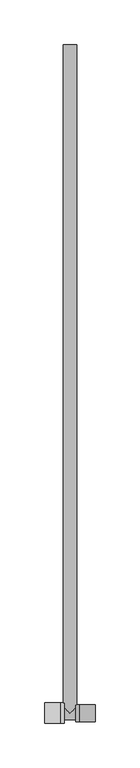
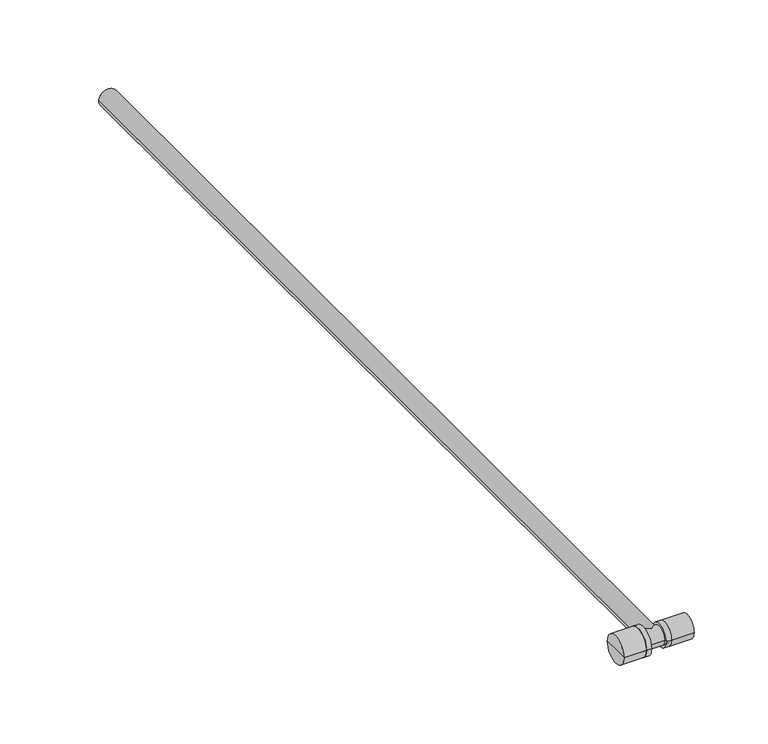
"""IFC4 building model written with IfcOpenShell, lengths in millimetres: pipe fitting geometry, KAN-therm Push 18x2 trójnik redukcyjny z rurą Cu15 L=750 : KAN-therm Push 18x2 trójnik redukcyjny z rurą Cu15 L=750."""

from ifc_helpers import new_model, si_unit, frame, origin, place, context, project, spatial, circle_curve, ellipse_curve, source, transform, mapped, element, save
from ifc_brep_helpers import plane_surface, cylinder_surface, advanced_brep


def pipe_fitting_d329eff9(model_context):
    return source(origin(), model_context, "Body", "AdvancedBrep", [
        advanced_brep(
        [(-10.5, -11.5, 0.0), (-10.5, 0.0, 0.0), (-10.5, 11.5, 0.0), (-6.5, -11.5, 0.0), (-6.5, 11.5, 0.0), (-6.5, 0.0, 0.0)],
        [
            (0, 1),
            (1, 2),
            (2, 0, circle_curve(frame((-10.5, 0.0, 0.0), z_axis=(-1.0, 0.0, 0.0), x_axis=(0.0, 1.0, 0.0)), 11.5)),
            (0, 2, circle_curve(frame((-10.5, 0.0, 0.0), z_axis=(-1.0, 0.0, 0.0), x_axis=(0.0, 1.0, 0.0)), 11.5)),
            (3, 0),
            (2, 4),
            (4, 3, circle_curve(frame((-6.5, 0.0, 0.0), z_axis=(-1.0, 0.0, 0.0), x_axis=(0.0, 1.0, 0.0)), 11.5)),
            (3, 4, circle_curve(frame((-6.5, 0.0, 0.0), z_axis=(-1.0, 0.0, 0.0), x_axis=(0.0, 1.0, 0.0)), 11.5)),
            (5, 3),
            (4, 5),
        ],
        [
            plane_surface(frame((-10.5, 0.0, 0.0), z_axis=(-1.0, 0.0, 0.0), x_axis=(0.0, 1.0, 0.0))),
            cylinder_surface(frame((-2005.5, 0.0, 0.0), z_axis=(1.0, 0.0, 0.0), x_axis=(0.0, 1.0, 0.0)), 11.5),
            plane_surface(frame((-6.5, 0.0, 0.0), z_axis=(1.0, 0.0, 0.0), x_axis=(0.0, 1.0, 0.0))),
        ],
        [
            (0, [[1, 2, 3]]),
            (0, [[-2, -1, 4]]),
            (1, [[5, -3, 6, 7]]),
            (1, [[-6, -4, -5, 8]]),
            (2, [[9, -7, 10]]),
            (2, [[-10, -8, -9]]),
        ],
    ),
        advanced_brep(
        [(-28.5, -11.5, 0.0), (-28.5, 0.0, 0.0), (-28.5, 11.5, 0.0), (-10.5, -11.5, 0.0), (-10.5, 11.5, 0.0), (-10.5, 0.0, 0.0)],
        [
            (0, 1),
            (1, 2),
            (2, 0, circle_curve(frame((-28.5, 0.0, 0.0), z_axis=(-1.0, 0.0, 0.0), x_axis=(0.0, 1.0, 0.0)), 11.5)),
            (0, 2, circle_curve(frame((-28.5, 0.0, 0.0), z_axis=(-1.0, 0.0, 0.0), x_axis=(0.0, 1.0, 0.0)), 11.5)),
            (3, 0),
            (2, 4),
            (4, 3, circle_curve(frame((-10.5, 0.0, 0.0), z_axis=(-1.0, 0.0, 0.0), x_axis=(0.0, 1.0, 0.0)), 11.5)),
            (3, 4, circle_curve(frame((-10.5, 0.0, 0.0), z_axis=(-1.0, 0.0, 0.0), x_axis=(0.0, 1.0, 0.0)), 11.5)),
            (5, 3),
            (4, 5),
        ],
        [
            plane_surface(frame((-28.5, 0.0, 0.0), z_axis=(-1.0, 0.0, 0.0), x_axis=(0.0, 1.0, 0.0))),
            cylinder_surface(frame((-2005.5, 0.0, 0.0), z_axis=(1.0, 0.0, 0.0), x_axis=(0.0, 1.0, 0.0)), 11.5),
            plane_surface(frame((-10.5, 0.0, 0.0), z_axis=(1.0, 0.0, 0.0), x_axis=(0.0, 1.0, 0.0))),
        ],
        [
            (0, [[1, 2, 3]]),
            (0, [[-2, -1, 4]]),
            (1, [[5, -3, 6, 7]]),
            (1, [[-6, -4, -5, 8]]),
            (2, [[9, -7, 10]]),
            (2, [[-10, -8, -9]]),
        ],
    ),
        advanced_brep(
        [(10.5, -9.5, 0.0), (10.5, 9.5, 0.0), (10.5, 0.0, 0.0), (6.5, -9.5, 0.0), (6.5, 9.5, 0.0), (6.5, 0.0, 0.0)],
        [
            (0, 1, circle_curve(frame((10.5, 0.0, 0.0), z_axis=(1.0, 0.0, 0.0), x_axis=(0.0, 1.0, 0.0)), 9.5)),
            (1, 2),
            (2, 0),
            (1, 0, circle_curve(frame((10.5, 0.0, 0.0), z_axis=(1.0, 0.0, 0.0), x_axis=(0.0, 1.0, 0.0)), 9.5)),
            (3, 4, circle_curve(frame((6.5, 0.0, 0.0), z_axis=(1.0, 0.0, 0.0), x_axis=(0.0, 1.0, 0.0)), 9.5)),
            (4, 1),
            (0, 3),
            (4, 3, circle_curve(frame((6.5, 0.0, 0.0), z_axis=(1.0, 0.0, 0.0), x_axis=(0.0, 1.0, 0.0)), 9.5)),
            (5, 4),
            (3, 5),
        ],
        [
            plane_surface(frame((10.5, 0.0, 0.0), z_axis=(1.0, 0.0, 0.0), x_axis=(0.0, 1.0, 0.0))),
            cylinder_surface(frame((2005.5, 0.0, 0.0), z_axis=(-1.0, 0.0, 0.0), x_axis=(0.0, 1.0, 0.0)), 9.5),
            plane_surface(frame((6.5, 0.0, 0.0), z_axis=(-1.0, 0.0, 0.0), x_axis=(0.0, 1.0, 0.0))),
        ],
        [
            (0, [[1, 2, 3]]),
            (0, [[4, -3, -2]]),
            (1, [[5, 6, -1, 7]]),
            (1, [[8, -7, -4, -6]]),
            (2, [[9, -5, 10]]),
            (2, [[-10, -8, -9]]),
        ],
    ),
        advanced_brep(
        [(28.5, -9.5, 0.0), (28.5, 9.5, 0.0), (28.5, 0.0, 0.0), (10.5, -9.5, 0.0), (10.5, 9.5, 0.0), (10.5, 0.0, 0.0)],
        [
            (0, 1, circle_curve(frame((28.5, 0.0, 0.0), z_axis=(1.0, 0.0, 0.0), x_axis=(0.0, 1.0, 0.0)), 9.5)),
            (1, 2),
            (2, 0),
            (1, 0, circle_curve(frame((28.5, 0.0, 0.0), z_axis=(1.0, 0.0, 0.0), x_axis=(0.0, 1.0, 0.0)), 9.5)),
            (3, 4, circle_curve(frame((10.5, 0.0, 0.0), z_axis=(1.0, 0.0, 0.0), x_axis=(0.0, 1.0, 0.0)), 9.5)),
            (4, 1),
            (0, 3),
            (4, 3, circle_curve(frame((10.5, 0.0, 0.0), z_axis=(1.0, 0.0, 0.0), x_axis=(0.0, 1.0, 0.0)), 9.5)),
            (5, 4),
            (3, 5),
        ],
        [
            plane_surface(frame((28.5, 0.0, 0.0), z_axis=(1.0, 0.0, 0.0), x_axis=(0.0, 1.0, 0.0))),
            cylinder_surface(frame((2005.5, 0.0, 0.0), z_axis=(-1.0, 0.0, 0.0), x_axis=(0.0, 1.0, 0.0)), 9.5),
            plane_surface(frame((10.5, 0.0, 0.0), z_axis=(-1.0, 0.0, 0.0), x_axis=(0.0, 1.0, 0.0))),
        ],
        [
            (0, [[1, 2, 3]]),
            (0, [[4, -3, -2]]),
            (1, [[5, 6, -1, 7]]),
            (1, [[8, -7, -4, -6]]),
            (2, [[9, -5, 10]]),
            (2, [[-10, -8, -9]]),
        ],
    ),
        advanced_brep(
        [(-7.5, 750.0, 0.0), (7.5, 750.0, 0.0), (7.5, 7.5, 0.0), (0.0, 0.0, -7.5), (-7.5, 7.5, 0.0), (0.0, 0.0, 7.5), (0.0, 750.0, 0.0), (10.5, -7.5, 0.0), (10.5, 7.5, 0.0), (10.5, 0.0, 0.0), (-10.5, 0.0, 0.0), (-10.5, 7.5, 0.0), (-10.5, -7.5, 0.0)],
        [
            (0, 1, circle_curve(frame((0.0, 750.0, 0.0), z_axis=(0.0, -1.0, 0.0), x_axis=(1.0, 0.0, 0.0)), 7.5)),
            (1, 2),
            (2, 3, ellipse_curve(frame((0.0, 0.0, 0.0), z_axis=(-0.7071067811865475, 0.7071067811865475, 0.0), x_axis=(0.7071067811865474, 0.7071067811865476, 0.0)), 10.6066017, 7.5)),
            (3, 4, ellipse_curve(frame((0.0, 0.0, 0.0), z_axis=(0.7071067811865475, 0.7071067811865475, 0.0), x_axis=(-0.7071067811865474, 0.7071067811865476, 0.0)), 10.6066017, 7.5)),
            (4, 0),
            (1, 0, circle_curve(frame((0.0, 750.0, 0.0), z_axis=(0.0, -1.0, 0.0), x_axis=(1.0, 0.0, 0.0)), 7.5)),
            (4, 5, ellipse_curve(frame((0.0, 0.0, 0.0), z_axis=(0.7071067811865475, 0.7071067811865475, 0.0), x_axis=(-0.7071067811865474, 0.7071067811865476, 0.0)), 10.6066017, 7.5)),
            (5, 2, ellipse_curve(frame((0.0, 0.0, 0.0), z_axis=(-0.7071067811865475, 0.7071067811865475, 0.0), x_axis=(0.7071067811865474, 0.7071067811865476, 0.0)), 10.6066017, 7.5)),
            (0, 6),
            (6, 1),
            (7, 8, circle_curve(frame((10.5, 0.0, 0.0), z_axis=(1.0, 0.0, 0.0), x_axis=(0.0, 1.0, 0.0)), 7.5)),
            (8, 9),
            (9, 7),
            (8, 7, circle_curve(frame((10.5, 0.0, 0.0), z_axis=(1.0, 0.0, 0.0), x_axis=(0.0, 1.0, 0.0)), 7.5)),
            (10, 11),
            (11, 12, circle_curve(frame((-10.5, 0.0, 0.0), z_axis=(-1.0, 0.0, 0.0), x_axis=(0.0, 1.0, 0.0)), 7.5)),
            (12, 10),
            (12, 11, circle_curve(frame((-10.5, 0.0, 0.0), z_axis=(-1.0, 0.0, 0.0), x_axis=(0.0, 1.0, 0.0)), 7.5)),
            (7, 12),
            (11, 4),
            (2, 8),
        ],
        [
            cylinder_surface(frame((0.0, 2450.0, 0.0), z_axis=(0.0, 1.0, 0.0), x_axis=(1.0, 0.0, 0.0)), 7.5),
            plane_surface(frame((0.0, 750.0, 0.0), z_axis=(0.0, 1.0, 0.0), x_axis=(1.0, 0.0, 0.0))),
            plane_surface(frame((10.5, 0.0, 0.0), z_axis=(1.0, 0.0, 0.0), x_axis=(0.0, 1.0, 0.0))),
            plane_surface(frame((-10.5, 0.0, 0.0), z_axis=(-1.0, 0.0, 0.0), x_axis=(0.0, 1.0, 0.0))),
            cylinder_surface(frame((2004.5, 0.0, 0.0), z_axis=(-1.0, 0.0, 0.0), x_axis=(0.0, 1.0, 0.0)), 7.5),
        ],
        [
            (0, [[1, 2, 3, 4, 5]]),
            (0, [[6, -5, 7, 8, -2]]),
            (1, [[-1, 9, 10]]),
            (1, [[-6, -10, -9]]),
            (2, [[11, 12, 13]]),
            (2, [[-12, 14, -13]]),
            (3, [[15, 16, 17]]),
            (3, [[-15, -17, 18]]),
            (4, [[-11, 19, -16, 20, -4, -3, 21]]),
            (4, [[-14, -21, -8, -7, -20, -18, -19]]),
        ],
    ),
    ])


if __name__ == "__main__":
    model = new_model("IFC4")
    model_context = context("Model", 3, world=origin())
    ifc_project = project(units=[si_unit("LENGTHUNIT", "METRE", prefix="MILLI")], contexts=[model_context])
    site = spatial("IfcSite", under=ifc_project)
    building = spatial("IfcBuilding", under=site)
    placement = place(None, origin())
    pipe_fitting_shape = pipe_fitting_d329eff9(model_context)
    element("IfcPipeFitting", 1, ObjectType="KAN-therm Push 18x2 trójnik redukcyjny z rurą Cu15 L=750 : KAN-therm Push 18x2 trójnik redukcyjny z rurą Cu15 L=750", at=placement, inside=building, context=model_context, shape_type="MappedRepresentation", body=[
        mapped(pipe_fitting_shape, transform((0.0, 0.0, 0.0), x_axis=(1.0, 0.0, 0.0), y_axis=(0.0, 1.0, 0.0), z_axis=(0.0, 0.0, 1.0))),
    ])
    save(model, "model.ifc")
